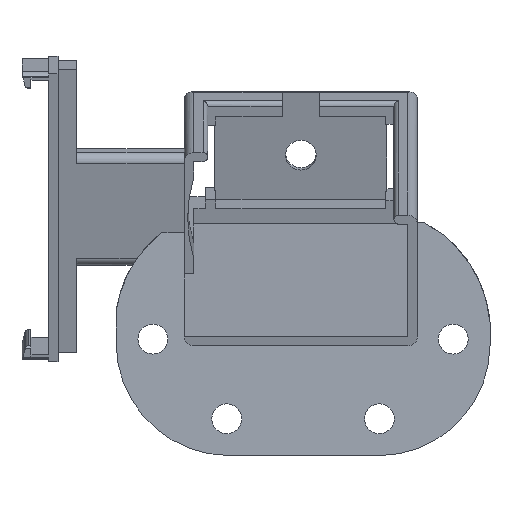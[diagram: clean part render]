
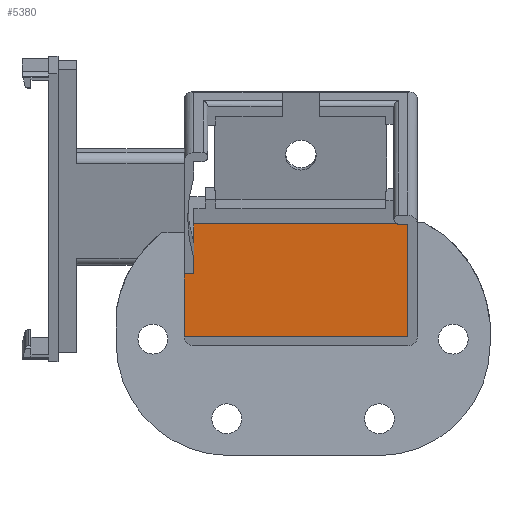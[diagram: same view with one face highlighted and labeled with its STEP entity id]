
A CAD part, front view. The second image highlights one B-rep face of the part: STEP entity #5380.
In plain terms, the highlighted planar face has unit normal (0, -0.259, 0.966).
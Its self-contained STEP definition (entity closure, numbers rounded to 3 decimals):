
#1779 = PLANE('',#1780);
#1780 = AXIS2_PLACEMENT_3D('',#1781,#1782,#1783);
#1781 = CARTESIAN_POINT('',(-95.487,-22.29,
    52.907));
#1782 = DIRECTION('',(-1.,0.,0.));
#1783 = DIRECTION('',(0.,0.259,-0.966
    ));
#3242 = PLANE('',#3243);
#3243 = AXIS2_PLACEMENT_3D('',#3244,#3245,#3246);
#3244 = CARTESIAN_POINT('',(-91.771,-15.118,
    26.142));
#3245 = DIRECTION('',(0.,-0.966,-0.259
    ));
#3246 = DIRECTION('',(0.,-0.259,0.966)
  );
#3332 = VERTEX_POINT('',#3333);
#3333 = CARTESIAN_POINT('',(-95.487,-15.302,
    26.827));
#3354 = EDGE_CURVE('',#3332,#3355,#3357,.T.);
#3355 = VERTEX_POINT('',#3356);
#3356 = CARTESIAN_POINT('',(-95.487,25.267,
    37.698));
#3357 = SURFACE_CURVE('',#3358,(#3362,#3369),.PCURVE_S1.);
#3358 = LINE('',#3359,#3360);
#3359 = CARTESIAN_POINT('',(-95.487,-26.893,
    23.722));
#3360 = VECTOR('',#3361,1.);
#3361 = DIRECTION('',(0.,0.966,0.259)
  );
#3362 = PCURVE('',#1779,#3363);
#3363 = DEFINITIONAL_REPRESENTATION('',(#3364),#3368);
#3364 = LINE('',#3365,#3366);
#3365 = CARTESIAN_POINT('',(27.,12.));
#3366 = VECTOR('',#3367,1.);
#3367 = DIRECTION('',(0.,-1.));
#3368 = ( GEOMETRIC_REPRESENTATION_CONTEXT(2) 
PARAMETRIC_REPRESENTATION_CONTEXT() REPRESENTATION_CONTEXT('2D SPACE',''
  ) );
#3369 = PCURVE('',#3370,#3375);
#3370 = PLANE('',#3371);
#3371 = AXIS2_PLACEMENT_3D('',#3372,#3373,#3374);
#3372 = CARTESIAN_POINT('',(-47.487,-26.893,
    23.722));
#3373 = DIRECTION('',(0.,0.259,-0.966
    ));
#3374 = DIRECTION('',(1.,0.,0.));
#3375 = DEFINITIONAL_REPRESENTATION('',(#3376),#3380);
#3376 = LINE('',#3377,#3378);
#3377 = CARTESIAN_POINT('',(-48.,0.));
#3378 = VECTOR('',#3379,1.);
#3379 = DIRECTION('',(0.,-1.));
#3380 = ( GEOMETRIC_REPRESENTATION_CONTEXT(2) 
PARAMETRIC_REPRESENTATION_CONTEXT() REPRESENTATION_CONTEXT('2D SPACE',''
  ) );
#3398 = PLANE('',#3399);
#3399 = AXIS2_PLACEMENT_3D('',#3400,#3401,#3402);
#3400 = CARTESIAN_POINT('',(-91.771,25.451,
    37.012));
#3401 = DIRECTION('',(0.,-0.966,-0.259
    ));
#3402 = DIRECTION('',(0.,-0.259,0.966)
  );
#5337 = VERTEX_POINT('',#5338);
#5338 = CARTESIAN_POINT('',(-97.487,-15.302,
    26.827));
#5359 = EDGE_CURVE('',#3332,#5337,#5360,.T.);
#5360 = SURFACE_CURVE('',#5361,(#5365,#5372),.PCURVE_S1.);
#5361 = LINE('',#5362,#5363);
#5362 = CARTESIAN_POINT('',(-47.487,-15.302,
    26.827));
#5363 = VECTOR('',#5364,1.);
#5364 = DIRECTION('',(-1.,0.,0.));
#5365 = PCURVE('',#3242,#5366);
#5366 = DEFINITIONAL_REPRESENTATION('',(#5367),#5371);
#5367 = LINE('',#5368,#5369);
#5368 = CARTESIAN_POINT('',(0.71,-44.284));
#5369 = VECTOR('',#5370,1.);
#5370 = DIRECTION('',(0.,1.));
#5371 = ( GEOMETRIC_REPRESENTATION_CONTEXT(2) 
PARAMETRIC_REPRESENTATION_CONTEXT() REPRESENTATION_CONTEXT('2D SPACE',''
  ) );
#5372 = PCURVE('',#3370,#5373);
#5373 = DEFINITIONAL_REPRESENTATION('',(#5374),#5378);
#5374 = LINE('',#5375,#5376);
#5375 = CARTESIAN_POINT('',(0.,-12.));
#5376 = VECTOR('',#5377,1.);
#5377 = DIRECTION('',(-1.,0.));
#5378 = ( GEOMETRIC_REPRESENTATION_CONTEXT(2) 
PARAMETRIC_REPRESENTATION_CONTEXT() REPRESENTATION_CONTEXT('2D SPACE',''
  ) );
#5380 = ADVANCED_FACE('',(#5381),#3370,.F.);
#5381 = FACE_BOUND('',#5382,.T.);
#5382 = EDGE_LOOP('',(#5383,#5384,#5385,#5413,#5441,#5469));
#5383 = ORIENTED_EDGE('',*,*,#3354,.F.);
#5384 = ORIENTED_EDGE('',*,*,#5359,.T.);
#5385 = ORIENTED_EDGE('',*,*,#5386,.F.);
#5386 = EDGE_CURVE('',#5387,#5337,#5389,.T.);
#5387 = VERTEX_POINT('',#5388);
#5388 = CARTESIAN_POINT('',(-97.487,-65.53,
    13.369));
#5389 = SURFACE_CURVE('',#5390,(#5394,#5401),.PCURVE_S1.);
#5390 = LINE('',#5391,#5392);
#5391 = CARTESIAN_POINT('',(-97.487,-26.893,
    23.722));
#5392 = VECTOR('',#5393,1.);
#5393 = DIRECTION('',(0.,0.966,0.259)
  );
#5394 = PCURVE('',#3370,#5395);
#5395 = DEFINITIONAL_REPRESENTATION('',(#5396),#5400);
#5396 = LINE('',#5397,#5398);
#5397 = CARTESIAN_POINT('',(-50.,0.));
#5398 = VECTOR('',#5399,1.);
#5399 = DIRECTION('',(0.,-1.));
#5400 = ( GEOMETRIC_REPRESENTATION_CONTEXT(2) 
PARAMETRIC_REPRESENTATION_CONTEXT() REPRESENTATION_CONTEXT('2D SPACE',''
  ) );
#5401 = PCURVE('',#5402,#5407);
#5402 = CYLINDRICAL_SURFACE('',#5403,2.);
#5403 = AXIS2_PLACEMENT_3D('',#5404,#5405,#5406);
#5404 = CARTESIAN_POINT('',(-95.487,-26.893,
    23.722));
#5405 = DIRECTION('',(0.,0.966,0.259)
  );
#5406 = DIRECTION('',(0.,0.259,-0.966
    ));
#5407 = DEFINITIONAL_REPRESENTATION('',(#5408),#5412);
#5408 = LINE('',#5409,#5410);
#5409 = CARTESIAN_POINT('',(1.571,0.));
#5410 = VECTOR('',#5411,1.);
#5411 = DIRECTION('',(0.,1.));
#5412 = ( GEOMETRIC_REPRESENTATION_CONTEXT(2) 
PARAMETRIC_REPRESENTATION_CONTEXT() REPRESENTATION_CONTEXT('2D SPACE',''
  ) );
#5413 = ORIENTED_EDGE('',*,*,#5414,.F.);
#5414 = EDGE_CURVE('',#5415,#5387,#5417,.T.);
#5415 = VERTEX_POINT('',#5416);
#5416 = CARTESIAN_POINT('',(-49.487,-65.53,
    13.369));
#5417 = SURFACE_CURVE('',#5418,(#5422,#5429),.PCURVE_S1.);
#5418 = LINE('',#5419,#5420);
#5419 = CARTESIAN_POINT('',(-97.487,-65.53,
    13.369));
#5420 = VECTOR('',#5421,1.);
#5421 = DIRECTION('',(-1.,0.,0.));
#5422 = PCURVE('',#3370,#5423);
#5423 = DEFINITIONAL_REPRESENTATION('',(#5424),#5428);
#5424 = LINE('',#5425,#5426);
#5425 = CARTESIAN_POINT('',(-50.,40.));
#5426 = VECTOR('',#5427,1.);
#5427 = DIRECTION('',(-1.,0.));
#5428 = ( GEOMETRIC_REPRESENTATION_CONTEXT(2) 
PARAMETRIC_REPRESENTATION_CONTEXT() REPRESENTATION_CONTEXT('2D SPACE',''
  ) );
#5429 = PCURVE('',#5430,#5435);
#5430 = PLANE('',#5431);
#5431 = AXIS2_PLACEMENT_3D('',#5432,#5433,#5434);
#5432 = CARTESIAN_POINT('',(-95.487,-65.53,
    13.369));
#5433 = DIRECTION('',(0.,-0.966,-0.259
    ));
#5434 = DIRECTION('',(0.,-0.259,0.966)
  );
#5435 = DEFINITIONAL_REPRESENTATION('',(#5436),#5440);
#5436 = LINE('',#5437,#5438);
#5437 = CARTESIAN_POINT('',(0.,2.));
#5438 = VECTOR('',#5439,1.);
#5439 = DIRECTION('',(0.,1.));
#5440 = ( GEOMETRIC_REPRESENTATION_CONTEXT(2) 
PARAMETRIC_REPRESENTATION_CONTEXT() REPRESENTATION_CONTEXT('2D SPACE',''
  ) );
#5441 = ORIENTED_EDGE('',*,*,#5442,.F.);
#5442 = EDGE_CURVE('',#5443,#5415,#5445,.T.);
#5443 = VERTEX_POINT('',#5444);
#5444 = CARTESIAN_POINT('',(-49.487,25.267,
    37.698));
#5445 = SURFACE_CURVE('',#5446,(#5450,#5457),.PCURVE_S1.);
#5446 = LINE('',#5447,#5448);
#5447 = CARTESIAN_POINT('',(-49.487,-26.893,
    23.722));
#5448 = VECTOR('',#5449,1.);
#5449 = DIRECTION('',(0.,-0.966,-0.259
    ));
#5450 = PCURVE('',#3370,#5451);
#5451 = DEFINITIONAL_REPRESENTATION('',(#5452),#5456);
#5452 = LINE('',#5453,#5454);
#5453 = CARTESIAN_POINT('',(-2.,0.));
#5454 = VECTOR('',#5455,1.);
#5455 = DIRECTION('',(0.,1.));
#5456 = ( GEOMETRIC_REPRESENTATION_CONTEXT(2) 
PARAMETRIC_REPRESENTATION_CONTEXT() REPRESENTATION_CONTEXT('2D SPACE',''
  ) );
#5457 = PCURVE('',#5458,#5463);
#5458 = PLANE('',#5459);
#5459 = AXIS2_PLACEMENT_3D('',#5460,#5461,#5462);
#5460 = CARTESIAN_POINT('',(-49.487,-33.881,
    49.802));
#5461 = DIRECTION('',(1.,0.,0.));
#5462 = DIRECTION('',(0.,-0.259,0.966)
  );
#5463 = DEFINITIONAL_REPRESENTATION('',(#5464),#5468);
#5464 = LINE('',#5465,#5466);
#5465 = CARTESIAN_POINT('',(-27.,0.));
#5466 = VECTOR('',#5467,1.);
#5467 = DIRECTION('',(0.,1.));
#5468 = ( GEOMETRIC_REPRESENTATION_CONTEXT(2) 
PARAMETRIC_REPRESENTATION_CONTEXT() REPRESENTATION_CONTEXT('2D SPACE',''
  ) );
#5469 = ORIENTED_EDGE('',*,*,#5470,.T.);
#5470 = EDGE_CURVE('',#5443,#3355,#5471,.T.);
#5471 = SURFACE_CURVE('',#5472,(#5476,#5483),.PCURVE_S1.);
#5472 = LINE('',#5473,#5474);
#5473 = CARTESIAN_POINT('',(-47.487,25.267,
    37.698));
#5474 = VECTOR('',#5475,1.);
#5475 = DIRECTION('',(-1.,0.,0.));
#5476 = PCURVE('',#3370,#5477);
#5477 = DEFINITIONAL_REPRESENTATION('',(#5478),#5482);
#5478 = LINE('',#5479,#5480);
#5479 = CARTESIAN_POINT('',(0.,-54.));
#5480 = VECTOR('',#5481,1.);
#5481 = DIRECTION('',(-1.,0.));
#5482 = ( GEOMETRIC_REPRESENTATION_CONTEXT(2) 
PARAMETRIC_REPRESENTATION_CONTEXT() REPRESENTATION_CONTEXT('2D SPACE',''
  ) );
#5483 = PCURVE('',#3398,#5484);
#5484 = DEFINITIONAL_REPRESENTATION('',(#5485),#5489);
#5485 = LINE('',#5486,#5487);
#5486 = CARTESIAN_POINT('',(0.71,-44.284));
#5487 = VECTOR('',#5488,1.);
#5488 = DIRECTION('',(0.,1.));
#5489 = ( GEOMETRIC_REPRESENTATION_CONTEXT(2) 
PARAMETRIC_REPRESENTATION_CONTEXT() REPRESENTATION_CONTEXT('2D SPACE',''
  ) );
